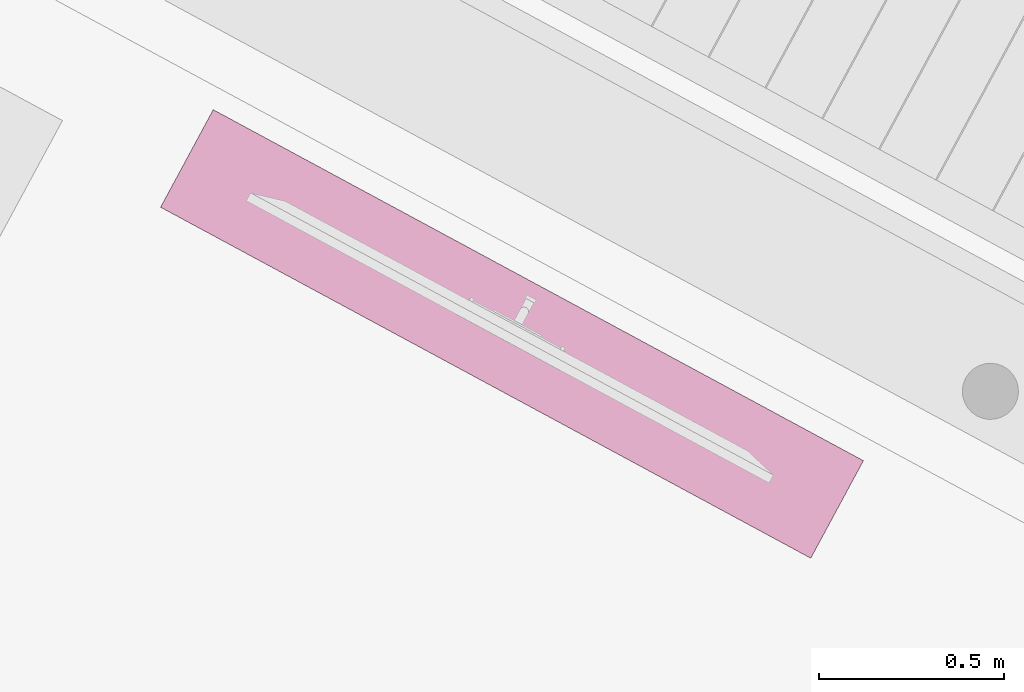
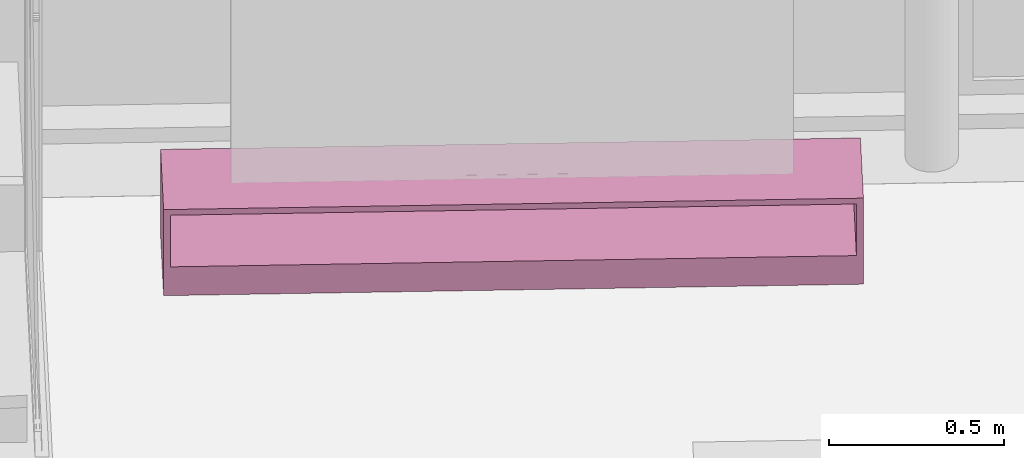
# One storey, part 36 of 41: 1 furnishing.
"""IFC2X3 building model written with IfcOpenShell, lengths in metres."""

from ifc_helpers import new_model, entity, si_unit, converted_unit, derived_unit, money_unit, direction, frame, origin_with_axes, place, context, subcontext, project, spatial, faceted_brep, type_object, element, save


model = new_model("IFC2X3")

# Units and contexts
model_context = context("Model", 3, precision=1e-05, world=origin_with_axes(), true_north=direction((0.0, 1.0)))
body_context = subcontext(model_context, "Body", "Model", "MODEL_VIEW")
ifc_project = project(units=[si_unit("LENGTHUNIT", "METRE"), si_unit("AREAUNIT", "SQUARE_METRE"), si_unit("VOLUMEUNIT", "CUBIC_METRE"), converted_unit("PLANEANGLEUNIT", "DEGREE", entity("IfcPlaneAngleMeasure", 0.0174532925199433), si_unit("PLANEANGLEUNIT", "RADIAN"), dimensions=[0, 0, 0, 0, 0, 0, 0]), money_unit("EUR"), converted_unit("TIMEUNIT", "Year", entity("IfcTimeMeasure", 31556926.0), si_unit("TIMEUNIT", "SECOND"), dimensions=[0, 0, 1, 0, 0, 0, 0]), si_unit("MASSUNIT", "GRAM", prefix="KILO"), si_unit("THERMODYNAMICTEMPERATUREUNIT", "DEGREE_CELSIUS"), si_unit("LUMINOUSINTENSITYUNIT", "LUMEN"), si_unit("ENERGYUNIT", "JOULE", prefix="MEGA"), derived_unit("THERMALCONDUCTANCEUNIT", [(si_unit("POWERUNIT", "WATT"), 1), (si_unit("LENGTHUNIT", "METRE"), -1), (si_unit("THERMODYNAMICTEMPERATUREUNIT", "KELVIN"), -1)]), derived_unit("SPECIFICHEATCAPACITYUNIT", [(si_unit("ENERGYUNIT", "JOULE"), 1), (si_unit("MASSUNIT", "GRAM", prefix="KILO"), -1), (si_unit("THERMODYNAMICTEMPERATUREUNIT", "KELVIN"), -1)]), derived_unit("MASSDENSITYUNIT", [(si_unit("MASSUNIT", "GRAM", prefix="KILO"), 1), (si_unit("VOLUMEUNIT", "CUBIC_METRE"), -1)])], contexts=[model_context])

# Site, building, storey
site_placement = place(None, frame((-3.949935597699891, 1.740105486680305, 0.0), z_axis=(0.0, 0.0, 1.0), x_axis=(0.8799804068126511, -0.475009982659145, 0.0)))
site = spatial("IfcSite", under=ifc_project, at=site_placement, Name="Gelände", CompositionType="ELEMENT")
building_placement = place(site_placement, origin_with_axes())
building = spatial("IfcBuilding", under=site, at=building_placement, Name="Gebäude", CompositionType="ELEMENT")
storey_placement = place(building_placement, frame((0.0, 0.0, 4.55), z_axis=(0.0, 0.0, 1.0), x_axis=(1.0, 0.0, 0.0)))
storey = spatial("IfcBuildingStorey", under=building, at=storey_placement, Name="Staffelgeschoss", CompositionType="ELEMENT", Elevation=4.55)

# Furnishing
furniture_type = type_object("IfcFurnitureType", Name="Regal 1 22", AssemblyPlace="NOTDEFINED")
furnishing_placement = place(storey_placement, frame((18.12765048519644, 10.45938647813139, 0.0), z_axis=(0.0, 0.0, 1.0), x_axis=(1.0, 0.0, 0.0)))
element("IfcFurnishingElement", 1, at=furnishing_placement, inside=storey, type_object=furniture_type, Name="Objekt-0070", ObjectType="FURNITURE", context=body_context, shape_type="Brep", body=[
    faceted_brep([(1.980000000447, -0.00999999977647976, 0.0), (1.980000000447, -0.3000000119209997, 0.0), (0.01999999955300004, -0.300000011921, 0.0), (0.019999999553, -0.009999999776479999, 0.0), (1.980000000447, -0.00999999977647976, 0.10000000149), (1.980000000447, -0.3000000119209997, 0.10000000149), (0.01999999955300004, -0.300000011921, 0.10000000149), (0.019999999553, -0.009999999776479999, 0.10000000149)], [[[0, 1, 2, 3]], [[0, 4, 5, 1]], [[1, 5, 6, 2]], [[2, 6, 7, 3]], [[3, 7, 4, 0]], [[7, 6, 5, 4]]]),
    faceted_brep([(0.019999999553, 0.0, 0.0), (0.01999999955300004, -0.300000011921, 0.0), (0.0, -0.300000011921, 0.0), (0.0, 0.0, 0.0), (0.019999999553, 0.0, 0.3), (0.01999999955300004, -0.300000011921, 0.3), (0.0, -0.300000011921, 0.3), (0.0, 0.0, 0.3)], [[[0, 1, 2, 3]], [[0, 4, 5, 1]], [[1, 5, 6, 2]], [[2, 6, 7, 3]], [[3, 7, 4, 0]], [[7, 6, 5, 4]]]),
    faceted_brep([(2.0, 0.0, 0.0), (2.0, -0.3000000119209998, 0.0), (1.980000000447, -0.3000000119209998, 0.0), (1.980000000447, 0.0, 0.0), (2.0, 0.0, 0.3), (2.0, -0.3000000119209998, 0.3), (1.980000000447, -0.3000000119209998, 0.3), (1.980000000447, 0.0, 0.3)], [[[0, 1, 2, 3]], [[0, 4, 5, 1]], [[1, 5, 6, 2]], [[2, 6, 7, 3]], [[3, 7, 4, 0]], [[7, 6, 5, 4]]]),
    faceted_brep([(1.980000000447, 0.0, 0.0), (1.980000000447, -0.00999999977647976, 0.0), (0.019999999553, -0.009999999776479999, 0.0), (0.019999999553, 0.0, 0.0), (1.980000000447, 0.0, 0.280000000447), (1.980000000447, -0.00999999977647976, 0.280000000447), (0.019999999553, -0.009999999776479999, 0.280000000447), (0.019999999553, 0.0, 0.280000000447)], [[[0, 1, 2, 3]], [[0, 4, 5, 1]], [[1, 5, 6, 2]], [[2, 6, 7, 3]], [[3, 7, 4, 0]], [[7, 6, 5, 4]]]),
    faceted_brep([(1.980000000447, 0.0, 0.280000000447), (1.980000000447, -0.3000000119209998, 0.280000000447), (0.01999999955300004, -0.300000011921, 0.280000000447), (0.019999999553, 0.0, 0.280000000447), (1.980000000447, 0.0, 0.3), (1.980000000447, -0.3000000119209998, 0.3), (0.01999999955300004, -0.300000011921, 0.3), (0.019999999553, 0.0, 0.3)], [[[0, 1, 2, 3]], [[0, 4, 5, 1]], [[1, 5, 6, 2]], [[2, 6, 7, 3]], [[3, 7, 4, 0]], [[7, 6, 5, 4]]]),
])

save(model, "model.ifc")
